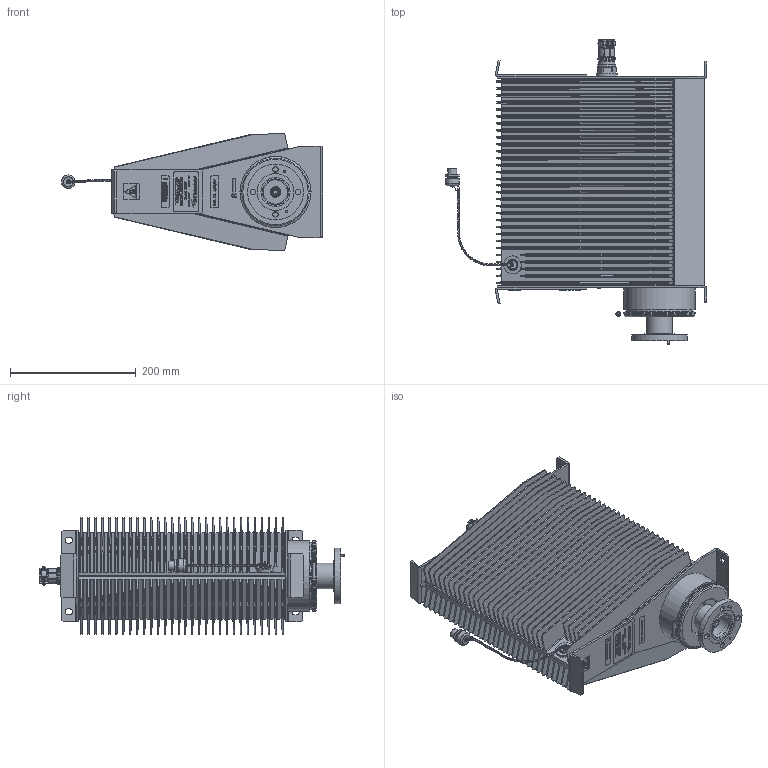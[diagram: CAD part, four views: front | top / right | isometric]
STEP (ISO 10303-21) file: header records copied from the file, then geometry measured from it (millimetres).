
FILE_DESCRIPTION(/* description */ ('Unknown'),/* implementation_level */ '2;1');
FILE_NAME(/* name */ '8862_RevM STEP',/* time_stamp */ '2021-01-20T13:25:52-05:00',/* author */ ('Unknown'),/* organization */ ('Unknown'),/* preprocessor_version */ 'ST-DEVELOPER v16.7',/* originating_system */ 'Solid Edge',/* authorisation */ 'Unknown');
FILE_SCHEMA (('AUTOMOTIVE_DESIGN {1 0 10303 214 3 1 1}'));
Products named in the file (4): 8862; 8860-015 PAT. NO. LABEL; 5A2608_CLAMP_BAND-FIX
Assembly tree (3 placements, depth 2):
  8862
    8862
    8860-015 PAT. NO. LABEL
    5A2608_CLAMP_BAND-FIX
Bounding box: 415.9 x 486.6 x 185.56 mm (x, y, z)
Volume: 2951486 mm3; surface area: 1864307 mm2
Topology: 7 solids, 13 shells, 3890 faces, 10745 edges, 7155 vertices
Faces by surface type: plane 2932, cylinder 496, bspline 362, sphere 44, torus 34, cone 22
Full cylindrical faces by diameter (mm): 0.468 x1, 0.76 x1, 0.823 x1, 1.037 x1, 1.062 x1, 1.143 x4, 1.524 x1, 2.54 x2, 2.616 x4, 3.048 x1, 3.277 x1, 3.81 x4, 4.747 x1, 4.775 x2, 4.797 x1, 4.826 x1, 5.563 x1, 6.265 x1, 6.33 x1, 6.35 x1, 6.629 x1, 7.811 x1, 8.712 x4, 9.398 x1, 9.55 x1, 11.557 x1, 12.243 x1, 12.903 x1, 14.275 x1, 14.3 x1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
Entity records: 168547 total; most frequent: CARTESIAN_POINT 46010, ORIENTED_EDGE 20792, DIRECTION 17378, EDGE_CURVE 10396, LINE 8116, VECTOR 8116, VERTEX_POINT 7020, AXIS2_PLACEMENT_3D 4631
